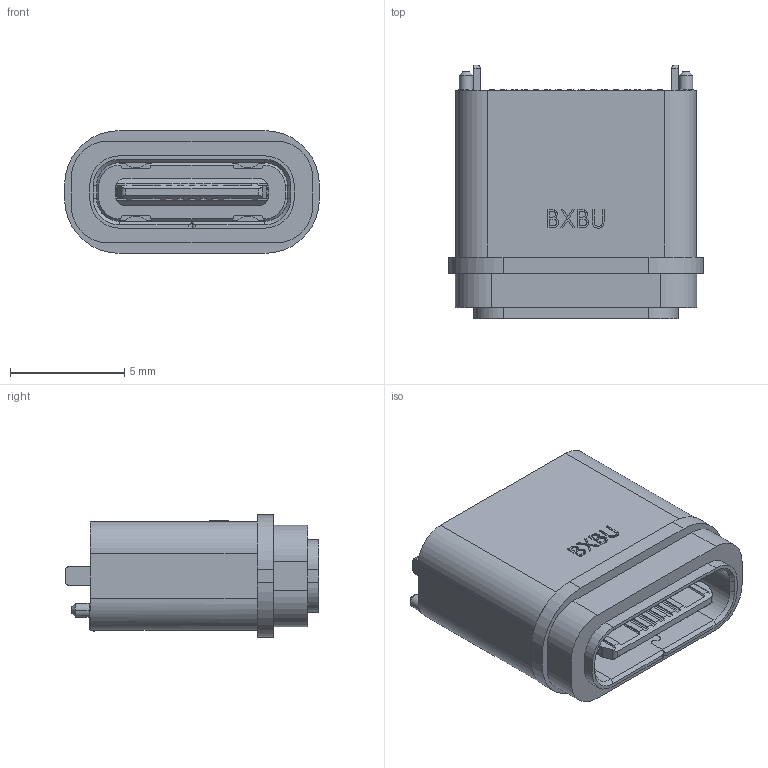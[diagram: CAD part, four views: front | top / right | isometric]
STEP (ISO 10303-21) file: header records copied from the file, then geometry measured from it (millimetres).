
FILE_DESCRIPTION (( 'STEP AP214' ), '1' );
FILE_NAME ('U5448-16PN10.0LF.STEP', '2026-07-29T06:51:55', ( '' ), ( '' ), 'SwSTEP 2.0', 'SolidWorks 2024', '' );
FILE_SCHEMA (( 'AUTOMOTIVE_DESIGN' ));
Length unit declared in the file: millimetre
Products named in the file (1): U5448-16PN10.0LF
Bounding box: 11.14 x 11.1 x 5.36 mm (x, y, z)
Volume: 392.2 mm3; surface area: 751.5 mm2
Topology: 2 solids, 29 shells, 1323 faces, 3614 edges, 2363 vertices
Faces by surface type: plane 1015, cylinder 224, cone 59, bspline 25
Entity records: 43290 total; most frequent: CARTESIAN_POINT 11088, ORIENTED_EDGE 7224, DIRECTION 5696, EDGE_CURVE 3612, VECTOR 2782, LINE 2782, VERTEX_POINT 2363, AXIS2_PLACEMENT_3D 1457
